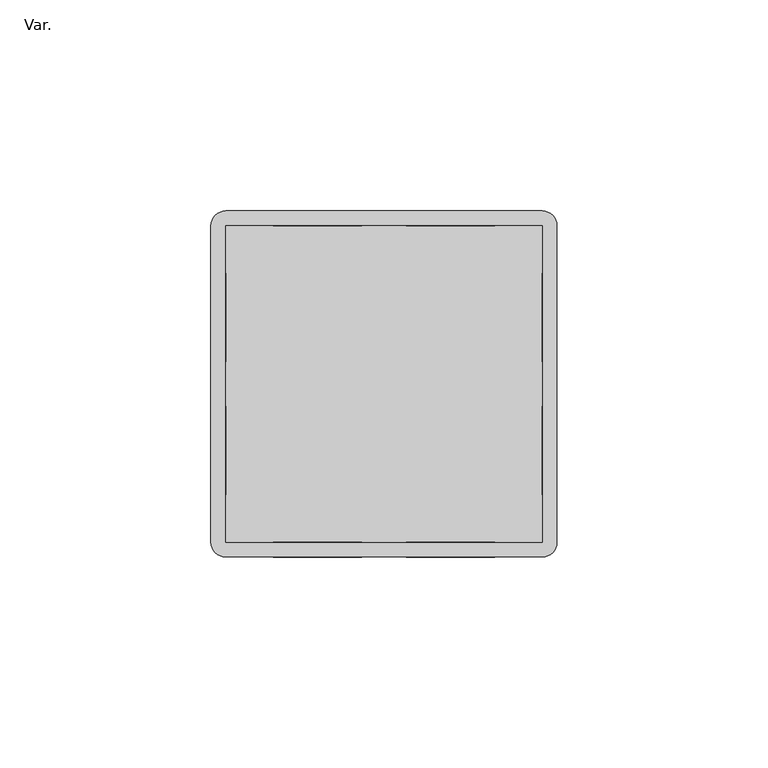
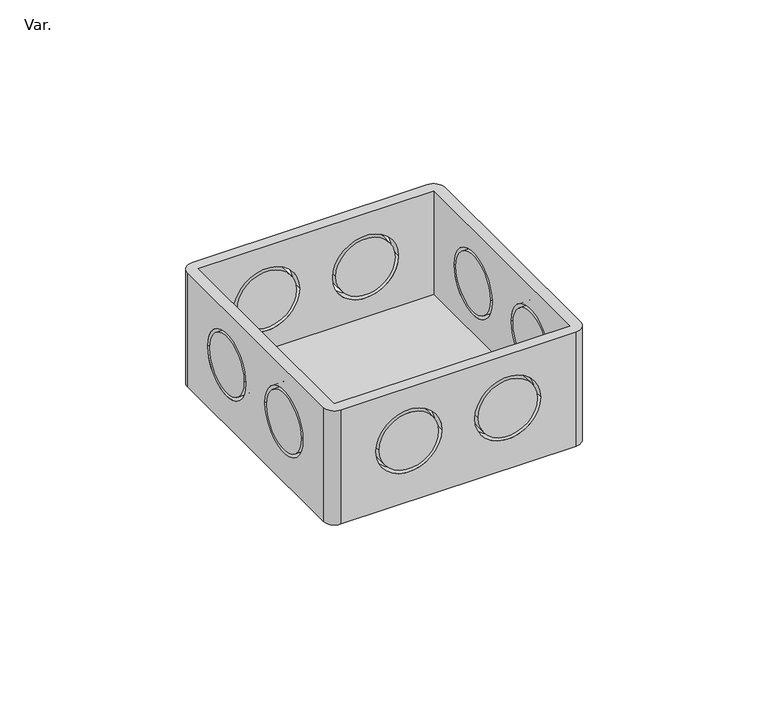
"""IFC4 building model written with IfcOpenShell, lengths in millimetres: cable carrier fitting geometry."""

from ifc_helpers import new_model, si_unit, frame, origin, place, context, project, spatial, polyline, circle_curve, source, transform, mapped, element, save
from ifc_brep_helpers import plane_surface, cylinder_surface, revolved_surface, advanced_brep


def var_f0f9a7e7(model_context):
    return source(origin(), model_context, "Body", "AdvancedBrep", [
        advanced_brep(
        [(37.5, 41.0, 18.0), (-37.5, 41.0, 18.0), (-41.0, 37.5, 18.0), (-41.0, -37.5, 18.0), (-37.5, -41.0, 18.0), (37.5, -41.0, 18.0), (41.0, -37.5, 18.0), (41.0, 37.5, 18.0), (-37.5, 37.5, 18.0), (37.5, 37.5, 18.0), (37.5, -37.5, 18.0), (-37.5, -37.5, 18.0), (37.5, 41.0, -20.5), (41.0, 37.5, -20.5), (41.0, -37.5, -20.5), (37.5, -41.0, -20.5), (-37.5, -41.0, -20.5), (-41.0, -37.5, -20.5), (-41.0, 37.5, -20.5), (-37.5, 41.0, -20.5), (-26.25, 41.0, 0.0), (-5.25, 41.0, 0.0), (5.25, 41.0, 0.0), (26.25, 41.0, 0.0), (-41.0, 5.25, 0.0), (-41.0, 26.25, 0.0), (-41.0, -26.25, 0.0), (-41.0, -5.25, 0.0), (-5.25, -41.0, 0.0), (-26.25, -41.0, 0.0), (26.25, -41.0, 0.0), (5.25, -41.0, 0.0), (41.0, 26.25, 0.0), (41.0, 5.25, 0.0), (41.0, -5.25, 0.0), (41.0, -26.25, 0.0), (37.5, 37.5, -17.0), (-37.5, 37.5, -17.0), (-37.5, -37.5, -17.0), (37.5, -37.5, -17.0), (-5.25, 37.5, 0.0), (-26.25, 37.5, 0.0), (26.25, 37.5, 0.0), (5.25, 37.5, 0.0), (-37.5, 26.25, 0.0), (-37.5, 5.25, 0.0), (-37.5, -5.25, 0.0), (-37.5, -26.25, 0.0), (-26.25, -37.5, 0.0), (-5.25, -37.5, 0.0), (5.25, -37.5, 0.0), (26.25, -37.5, 0.0), (37.5, 5.25, 0.0), (37.5, 26.25, 0.0), (37.5, -26.25, 0.0), (37.5, -5.25, 0.0)],
        [
            (0, 1),
            (1, 2, circle_curve(frame((-37.5, 37.5, 18.0), z_axis=(0.0, 0.0, 1.0), x_axis=(1.0, 0.0, 0.0)), 3.5)),
            (2, 3),
            (3, 4, circle_curve(frame((-37.5, -37.5, 18.0), z_axis=(0.0, 0.0, 1.0), x_axis=(1.0, 0.0, 0.0)), 3.5)),
            (4, 5),
            (5, 6, circle_curve(frame((37.5, -37.5, 18.0), z_axis=(0.0, 0.0, 1.0), x_axis=(1.0, 0.0, 0.0)), 3.5)),
            (6, 7),
            (7, 0, circle_curve(frame((37.5, 37.5, 18.0), z_axis=(0.0, 0.0, 1.0), x_axis=(1.0, 0.0, 0.0)), 3.5)),
            (8, 9),
            (9, 10),
            (10, 11),
            (11, 8),
            (12, 13, circle_curve(frame((37.5, 37.5, -20.5), z_axis=(0.0, 0.0, -1.0), x_axis=(1.0, 0.0, 0.0)), 3.5)),
            (13, 14),
            (14, 15, circle_curve(frame((37.5, -37.5, -20.5), z_axis=(0.0, 0.0, -1.0), x_axis=(1.0, 0.0, 0.0)), 3.5)),
            (15, 16),
            (16, 17, circle_curve(frame((-37.5, -37.5, -20.5), z_axis=(0.0, 0.0, -1.0), x_axis=(1.0, 0.0, 0.0)), 3.5)),
            (17, 18),
            (18, 19, circle_curve(frame((-37.5, 37.5, -20.5), z_axis=(0.0, 0.0, -1.0), x_axis=(1.0, 0.0, 0.0)), 3.5)),
            (19, 12),
            (0, 12),
            (19, 1),
            (20, 21, circle_curve(frame((-15.75, 41.0, 0.0), z_axis=(0.0, -1.0, 0.0), x_axis=(1.0, 0.0, 0.0)), 10.5)),
            (21, 20, circle_curve(frame((-15.75, 41.0, 0.0), z_axis=(0.0, -1.0, 0.0), x_axis=(1.0, 0.0, 0.0)), 10.5)),
            (22, 23, circle_curve(frame((15.75, 41.0, 0.0), z_axis=(0.0, -1.0, 0.0), x_axis=(1.0, 0.0, 0.0)), 10.5)),
            (23, 22, circle_curve(frame((15.75, 41.0, 0.0), z_axis=(0.0, -1.0, 0.0), x_axis=(1.0, 0.0, 0.0)), 10.5)),
            (18, 2),
            (17, 3),
            (24, 25, circle_curve(frame((-41.0, 15.75, 0.0), z_axis=(1.0, 0.0, 0.0), x_axis=(0.0, -1.0, 0.0)), 10.5)),
            (25, 24, circle_curve(frame((-41.0, 15.75, 0.0), z_axis=(1.0, 0.0, 0.0), x_axis=(0.0, -1.0, 0.0)), 10.5)),
            (26, 27, circle_curve(frame((-41.0, -15.75, 0.0), z_axis=(1.0, 0.0, 0.0), x_axis=(0.0, -1.0, 0.0)), 10.5)),
            (27, 26, circle_curve(frame((-41.0, -15.75, 0.0), z_axis=(1.0, 0.0, 0.0), x_axis=(0.0, -1.0, 0.0)), 10.5)),
            (16, 4),
            (15, 5),
            (28, 29, circle_curve(frame((-15.75, -41.0, 0.0), z_axis=(0.0, 1.0, 0.0), x_axis=(1.0, 0.0, 0.0)), 10.5)),
            (29, 28, circle_curve(frame((-15.75, -41.0, 0.0), z_axis=(0.0, 1.0, 0.0), x_axis=(1.0, 0.0, 0.0)), 10.5)),
            (30, 31, circle_curve(frame((15.75, -41.0, 0.0), z_axis=(0.0, 1.0, 0.0), x_axis=(1.0, 0.0, 0.0)), 10.5)),
            (31, 30, circle_curve(frame((15.75, -41.0, 0.0), z_axis=(0.0, 1.0, 0.0), x_axis=(1.0, 0.0, 0.0)), 10.5)),
            (14, 6),
            (13, 7),
            (32, 33, circle_curve(frame((41.0, 15.75, 0.0), z_axis=(-1.0, 0.0, 0.0), x_axis=(0.0, -1.0, 0.0)), 10.5)),
            (33, 32, circle_curve(frame((41.0, 15.75, 0.0), z_axis=(-1.0, 0.0, 0.0), x_axis=(0.0, -1.0, 0.0)), 10.5)),
            (34, 35, circle_curve(frame((41.0, -15.75, 0.0), z_axis=(-1.0, 0.0, 0.0), x_axis=(0.0, -1.0, 0.0)), 10.5)),
            (35, 34, circle_curve(frame((41.0, -15.75, 0.0), z_axis=(-1.0, 0.0, 0.0), x_axis=(0.0, -1.0, 0.0)), 10.5)),
            (36, 37),
            (37, 38),
            (38, 39),
            (39, 36),
            (36, 9),
            (8, 37),
            (40, 41, circle_curve(frame((-15.75, 37.5, 0.0), z_axis=(0.0, 1.0, 0.0), x_axis=(1.0, 0.0, 0.0)), 10.5)),
            (41, 40, circle_curve(frame((-15.75, 37.5, 0.0), z_axis=(0.0, 1.0, 0.0), x_axis=(1.0, 0.0, 0.0)), 10.5)),
            (42, 43, circle_curve(frame((15.75, 37.5, 0.0), z_axis=(0.0, 1.0, 0.0), x_axis=(1.0, 0.0, 0.0)), 10.5)),
            (43, 42, circle_curve(frame((15.75, 37.5, 0.0), z_axis=(0.0, 1.0, 0.0), x_axis=(1.0, 0.0, 0.0)), 10.5)),
            (11, 38),
            (44, 45, circle_curve(frame((-37.5, 15.75, 0.0), z_axis=(-1.0, 0.0, 0.0), x_axis=(0.0, -1.0, 0.0)), 10.5)),
            (45, 44, circle_curve(frame((-37.5, 15.75, 0.0), z_axis=(-1.0, 0.0, 0.0), x_axis=(0.0, -1.0, 0.0)), 10.5)),
            (46, 47, circle_curve(frame((-37.5, -15.75, 0.0), z_axis=(-1.0, 0.0, 0.0), x_axis=(0.0, -1.0, 0.0)), 10.5)),
            (47, 46, circle_curve(frame((-37.5, -15.75, 0.0), z_axis=(-1.0, 0.0, 0.0), x_axis=(0.0, -1.0, 0.0)), 10.5)),
            (10, 39),
            (48, 49, circle_curve(frame((-15.75, -37.5, 0.0), z_axis=(0.0, -1.0, 0.0), x_axis=(1.0, 0.0, 0.0)), 10.5)),
            (49, 48, circle_curve(frame((-15.75, -37.5, 0.0), z_axis=(0.0, -1.0, 0.0), x_axis=(1.0, 0.0, 0.0)), 10.5)),
            (50, 51, circle_curve(frame((15.75, -37.5, 0.0), z_axis=(0.0, -1.0, 0.0), x_axis=(1.0, 0.0, 0.0)), 10.5)),
            (51, 50, circle_curve(frame((15.75, -37.5, 0.0), z_axis=(0.0, -1.0, 0.0), x_axis=(1.0, 0.0, 0.0)), 10.5)),
            (52, 53, circle_curve(frame((37.5, 15.75, 0.0), z_axis=(1.0, 0.0, 0.0), x_axis=(0.0, -1.0, 0.0)), 10.5)),
            (53, 52, circle_curve(frame((37.5, 15.75, 0.0), z_axis=(1.0, 0.0, 0.0), x_axis=(0.0, -1.0, 0.0)), 10.5)),
            (54, 55, circle_curve(frame((37.5, -15.75, 0.0), z_axis=(1.0, 0.0, 0.0), x_axis=(0.0, -1.0, 0.0)), 10.5)),
            (55, 54, circle_curve(frame((37.5, -15.75, 0.0), z_axis=(1.0, 0.0, 0.0), x_axis=(0.0, -1.0, 0.0)), 10.5)),
            (20, 41),
            (40, 21),
            (48, 29),
            (28, 49),
            (22, 43),
            (42, 23),
            (50, 31),
            (30, 51),
            (44, 25),
            (24, 45),
            (32, 53),
            (52, 33),
            (46, 27),
            (26, 47),
            (34, 55),
            (54, 35),
        ],
        [
            plane_surface(frame((-37.5, 41.0, 18.0), z_axis=(0.0, 0.0, 1.0), x_axis=(-1.0, 0.0, 0.0))),
            plane_surface(frame((-37.5, 41.0, -20.5), z_axis=(0.0, 0.0, -1.0), x_axis=(1.0, 0.0, 0.0))),
            plane_surface(frame((37.5, 41.0, 18.0), z_axis=(0.0, 1.0, 0.0), x_axis=(0.0, 0.0, -1.0))),
            cylinder_surface(frame((-37.5, 37.5, -20.5), z_axis=(0.0, 0.0, 1.0), x_axis=(1.0, 0.0, 0.0)), 3.5),
            plane_surface(frame((-41.0, 37.5, 18.0), z_axis=(-1.0, 0.0, 0.0), x_axis=(0.0, 0.0, -1.0))),
            cylinder_surface(frame((-37.5, -37.5, -20.5), z_axis=(0.0, 0.0, 1.0), x_axis=(1.0, 0.0, 0.0)), 3.5),
            plane_surface(frame((-37.5, -41.0, 18.0), z_axis=(0.0, -1.0, 0.0), x_axis=(0.0, 0.0, -1.0))),
            cylinder_surface(frame((37.5, -37.5, -20.5), z_axis=(0.0, 0.0, 1.0), x_axis=(1.0, 0.0, 0.0)), 3.5),
            plane_surface(frame((41.0, -37.5, 18.0), z_axis=(1.0, 0.0, 0.0), x_axis=(0.0, 0.0, -1.0))),
            cylinder_surface(frame((37.5, 37.5, -20.5), z_axis=(0.0, 0.0, 1.0), x_axis=(1.0, 0.0, 0.0)), 3.5),
            plane_surface(frame((-37.5, 37.5, -17.0), z_axis=(0.0, 0.0, 1.0), x_axis=(1.0, 0.0, 0.0))),
            plane_surface(frame((37.5, 37.5, 18.0), z_axis=(0.0, -1.0, 0.0), x_axis=(0.0, 0.0, -1.0))),
            plane_surface(frame((-37.5, 37.5, 18.0), z_axis=(1.0, 0.0, 0.0), x_axis=(0.0, 0.0, -1.0))),
            plane_surface(frame((-37.5, -37.5, 18.0), z_axis=(0.0, 1.0, 0.0), x_axis=(0.0, 0.0, -1.0))),
            plane_surface(frame((37.5, -37.5, 18.0), z_axis=(-1.0, 0.0, 0.0), x_axis=(0.0, 0.0, -1.0))),
            revolved_surface(polyline([(-5.25, 37.5, 0.0), (-5.25, 41.0, 0.0)]), (-15.75, 15.75, 0.0), (0.0, -1.0, 0.0)),
            revolved_surface(polyline([(-5.25, -41.0, 0.0), (-5.25, -37.5, 0.0)]), (-15.75, 15.75, 0.0), (0.0, -1.0, 0.0)),
            revolved_surface(polyline([(26.25, 37.5, 0.0), (26.25, 41.0, 0.0)]), (15.75, 15.75, 0.0), (0.0, -1.0, 0.0)),
            revolved_surface(polyline([(26.25, -41.0, 0.0), (26.25, -37.5, 0.0)]), (15.75, 15.75, 0.0), (0.0, -1.0, 0.0)),
            revolved_surface(polyline([(-41.0, 5.25, 0.0), (-37.5, 5.25, 0.0)]), (84.25, 15.75, 0.0), (-1.0, 0.0, 0.0)),
            revolved_surface(polyline([(37.5, 5.25, 0.0), (41.0, 5.25, 0.0)]), (84.25, 15.75, 0.0), (-1.0, 0.0, 0.0)),
            revolved_surface(polyline([(-41.0, -26.25, 0.0), (-37.5, -26.25, 0.0)]), (-15.75, -15.75, 0.0), (-1.0, 0.0, 0.0)),
            revolved_surface(polyline([(37.5, -26.25, 0.0), (41.0, -26.25, 0.0)]), (-15.75, -15.75, 0.0), (-1.0, 0.0, 0.0)),
        ],
        [
            (0, [[1, 2, 3, 4, 5, 6, 7, 8], [9, 10, 11, 12]]),
            (1, [[13, 14, 15, 16, 17, 18, 19, 20]]),
            (2, [[-1, 21, -20, 22], [23, 24], [25, 26]]),
            (3, [[-2, -22, -19, 27]]),
            (4, [[-3, -27, -18, 28], [29, 30], [31, 32]]),
            (5, [[-4, -28, -17, 33]]),
            (6, [[-5, -33, -16, 34], [35, 36], [37, 38]]),
            (7, [[-6, -34, -15, 39]]),
            (8, [[-7, -39, -14, 40], [41, 42], [43, 44]]),
            (9, [[-8, -40, -13, -21]]),
            (10, [[45, 46, 47, 48]]),
            (11, [[-45, 49, -9, 50], [51, 52], [53, 54]]),
            (12, [[-46, -50, -12, 55], [56, 57], [58, 59]]),
            (13, [[-47, -55, -11, 60], [61, 62], [63, 64]]),
            (14, [[-48, -60, -10, -49], [65, 66], [67, 68]]),
            (15, [[69, -51, 70, -23]]),
            (16, [[71, -35, 72, -61]]),
            (15, [[-69, -24, -70, -52]]),
            (16, [[-71, -62, -72, -36]]),
            (17, [[73, -53, 74, -25]]),
            (18, [[75, -37, 76, -63]]),
            (17, [[-73, -26, -74, -54]]),
            (18, [[-75, -64, -76, -38]]),
            (19, [[77, -29, 78, -56]]),
            (20, [[79, -65, 80, -41]]),
            (19, [[-77, -57, -78, -30]]),
            (20, [[-79, -42, -80, -66]]),
            (21, [[81, -31, 82, -58]]),
            (22, [[83, -67, 84, -43]]),
            (21, [[-81, -59, -82, -32]]),
            (22, [[-83, -44, -84, -68]]),
        ],
    ),
        advanced_brep(
        [(-25.2, 41.0, 0.0), (-6.3, 41.0, 0.0), (-6.3, 37.5, 0.0), (-25.2, 37.5, 0.0)],
        [
            (0, 1, circle_curve(frame((-15.75, 41.0, 0.0), z_axis=(0.0, 1.0, 0.0), x_axis=(1.0, 0.0, 0.0)), 9.45)),
            (1, 0, circle_curve(frame((-15.75, 41.0, 0.0), z_axis=(0.0, 1.0, 0.0), x_axis=(1.0, 0.0, 0.0)), 9.45)),
            (2, 3, circle_curve(frame((-15.75, 37.5, 0.0), z_axis=(0.0, -1.0, 0.0), x_axis=(1.0, 0.0, 0.0)), 9.45)),
            (3, 2, circle_curve(frame((-15.75, 37.5, 0.0), z_axis=(0.0, -1.0, 0.0), x_axis=(1.0, 0.0, 0.0)), 9.45)),
            (0, 3),
            (2, 1),
        ],
        [
            plane_surface(frame((37.5, 41.0, 18.0), z_axis=(0.0, 1.0, 0.0), x_axis=(0.0, 0.0, -1.0))),
            plane_surface(frame((37.5, 37.5, 18.0), z_axis=(0.0, -1.0, 0.0), x_axis=(0.0, 0.0, -1.0))),
            cylinder_surface(frame((-15.75, 115.75, 0.0), z_axis=(0.0, 1.0, 0.0), x_axis=(1.0, 0.0, 0.0)), 9.45),
        ],
        [
            (0, [[1, 2]]),
            (1, [[3, 4]]),
            (2, [[5, -3, 6, -1]]),
            (2, [[-5, -2, -6, -4]]),
        ],
    ),
        advanced_brep(
        [(6.3, 41.0, 0.0), (25.2, 41.0, 0.0), (25.2, 37.5, 0.0), (6.3, 37.5, 0.0)],
        [
            (0, 1, circle_curve(frame((15.75, 41.0, 0.0), z_axis=(0.0, 1.0, 0.0), x_axis=(1.0, 0.0, 0.0)), 9.45)),
            (1, 0, circle_curve(frame((15.75, 41.0, 0.0), z_axis=(0.0, 1.0, 0.0), x_axis=(1.0, 0.0, 0.0)), 9.45)),
            (2, 3, circle_curve(frame((15.75, 37.5, 0.0), z_axis=(0.0, -1.0, 0.0), x_axis=(1.0, 0.0, 0.0)), 9.45)),
            (3, 2, circle_curve(frame((15.75, 37.5, 0.0), z_axis=(0.0, -1.0, 0.0), x_axis=(1.0, 0.0, 0.0)), 9.45)),
            (0, 3),
            (2, 1),
        ],
        [
            plane_surface(frame((37.5, 41.0, 18.0), z_axis=(0.0, 1.0, 0.0), x_axis=(0.0, 0.0, -1.0))),
            plane_surface(frame((37.5, 37.5, 18.0), z_axis=(0.0, -1.0, 0.0), x_axis=(0.0, 0.0, -1.0))),
            cylinder_surface(frame((15.75, 15.75, 0.0), z_axis=(0.0, 1.0, 0.0), x_axis=(1.0, 0.0, 0.0)), 9.45),
        ],
        [
            (0, [[1, 2]]),
            (1, [[3, 4]]),
            (2, [[5, -3, 6, -1]]),
            (2, [[-5, -2, -6, -4]]),
        ],
    ),
        advanced_brep(
        [(-41.0, 6.3, 0.0), (-41.0, 25.2, 0.0), (-37.5, 25.2, 0.0), (-37.5, 6.3, 0.0)],
        [
            (0, 1, circle_curve(frame((-41.0, 15.75, 0.0), z_axis=(-1.0, 0.0, 0.0), x_axis=(0.0, -1.0, 0.0)), 9.45)),
            (1, 0, circle_curve(frame((-41.0, 15.75, 0.0), z_axis=(-1.0, 0.0, 0.0), x_axis=(0.0, -1.0, 0.0)), 9.45)),
            (2, 3, circle_curve(frame((-37.5, 15.75, 0.0), z_axis=(1.0, 0.0, 0.0), x_axis=(0.0, -1.0, 0.0)), 9.45)),
            (3, 2, circle_curve(frame((-37.5, 15.75, 0.0), z_axis=(1.0, 0.0, 0.0), x_axis=(0.0, -1.0, 0.0)), 9.45)),
            (2, 1),
            (0, 3),
        ],
        [
            plane_surface(frame((-41.0, 37.5, 18.0), z_axis=(-1.0, 0.0, 0.0), x_axis=(0.0, 0.0, -1.0))),
            plane_surface(frame((-37.5, 37.5, 18.0), z_axis=(1.0, 0.0, 0.0), x_axis=(0.0, 0.0, -1.0))),
            cylinder_surface(frame((-15.75, 15.75, 0.0), z_axis=(1.0, 0.0, 0.0), x_axis=(0.0, -1.0, 0.0)), 9.45),
        ],
        [
            (0, [[1, 2]]),
            (1, [[3, 4]]),
            (2, [[5, -1, 6, -3]]),
            (2, [[-5, -4, -6, -2]]),
        ],
    ),
        advanced_brep(
        [(-41.0, -25.2, 0.0), (-41.0, -6.3, 0.0), (-37.5, -6.3, 0.0), (-37.5, -25.2, 0.0)],
        [
            (0, 1, circle_curve(frame((-41.0, -15.75, 0.0), z_axis=(-1.0, 0.0, 0.0), x_axis=(0.0, -1.0, 0.0)), 9.45)),
            (1, 0, circle_curve(frame((-41.0, -15.75, 0.0), z_axis=(-1.0, 0.0, 0.0), x_axis=(0.0, -1.0, 0.0)), 9.45)),
            (2, 3, circle_curve(frame((-37.5, -15.75, 0.0), z_axis=(1.0, 0.0, 0.0), x_axis=(0.0, -1.0, 0.0)), 9.45)),
            (3, 2, circle_curve(frame((-37.5, -15.75, 0.0), z_axis=(1.0, 0.0, 0.0), x_axis=(0.0, -1.0, 0.0)), 9.45)),
            (2, 1),
            (0, 3),
        ],
        [
            plane_surface(frame((-41.0, 37.5, 18.0), z_axis=(-1.0, 0.0, 0.0), x_axis=(0.0, 0.0, -1.0))),
            plane_surface(frame((-37.5, 37.5, 18.0), z_axis=(1.0, 0.0, 0.0), x_axis=(0.0, 0.0, -1.0))),
            cylinder_surface(frame((-15.75, -15.75, 0.0), z_axis=(1.0, 0.0, 0.0), x_axis=(0.0, -1.0, 0.0)), 9.45),
        ],
        [
            (0, [[1, 2]]),
            (1, [[3, 4]]),
            (2, [[5, -1, 6, -3]]),
            (2, [[-5, -4, -6, -2]]),
        ],
    ),
        advanced_brep(
        [(-6.3, -41.0, 0.0), (-25.2, -41.0, 0.0), (-25.2, -37.5, 0.0), (-6.3, -37.5, 0.0)],
        [
            (0, 1, circle_curve(frame((-15.75, -41.0, 0.0), z_axis=(0.0, -1.0, 0.0), x_axis=(1.0, 0.0, 0.0)), 9.45)),
            (1, 0, circle_curve(frame((-15.75, -41.0, 0.0), z_axis=(0.0, -1.0, 0.0), x_axis=(1.0, 0.0, 0.0)), 9.45)),
            (2, 3, circle_curve(frame((-15.75, -37.5, 0.0), z_axis=(0.0, 1.0, 0.0), x_axis=(1.0, 0.0, 0.0)), 9.45)),
            (3, 2, circle_curve(frame((-15.75, -37.5, 0.0), z_axis=(0.0, 1.0, 0.0), x_axis=(1.0, 0.0, 0.0)), 9.45)),
            (2, 1),
            (0, 3),
        ],
        [
            plane_surface(frame((-37.5, -41.0, 18.0), z_axis=(0.0, -1.0, 0.0), x_axis=(0.0, 0.0, -1.0))),
            plane_surface(frame((-37.5, -37.5, 18.0), z_axis=(0.0, 1.0, 0.0), x_axis=(0.0, 0.0, -1.0))),
            cylinder_surface(frame((-15.75, 115.75, 0.0), z_axis=(0.0, 1.0, 0.0), x_axis=(1.0, 0.0, 0.0)), 9.45),
        ],
        [
            (0, [[1, 2]]),
            (1, [[3, 4]]),
            (2, [[5, -1, 6, -3]]),
            (2, [[-5, -4, -6, -2]]),
        ],
    ),
        advanced_brep(
        [(25.2, -41.0, 0.0), (6.3, -41.0, 0.0), (6.3, -37.5, 0.0), (25.2, -37.5, 0.0)],
        [
            (0, 1, circle_curve(frame((15.75, -41.0, 0.0), z_axis=(0.0, -1.0, 0.0), x_axis=(1.0, 0.0, 0.0)), 9.45)),
            (1, 0, circle_curve(frame((15.75, -41.0, 0.0), z_axis=(0.0, -1.0, 0.0), x_axis=(1.0, 0.0, 0.0)), 9.45)),
            (2, 3, circle_curve(frame((15.75, -37.5, 0.0), z_axis=(0.0, 1.0, 0.0), x_axis=(1.0, 0.0, 0.0)), 9.45)),
            (3, 2, circle_curve(frame((15.75, -37.5, 0.0), z_axis=(0.0, 1.0, 0.0), x_axis=(1.0, 0.0, 0.0)), 9.45)),
            (2, 1),
            (0, 3),
        ],
        [
            plane_surface(frame((-37.5, -41.0, 18.0), z_axis=(0.0, -1.0, 0.0), x_axis=(0.0, 0.0, -1.0))),
            plane_surface(frame((-37.5, -37.5, 18.0), z_axis=(0.0, 1.0, 0.0), x_axis=(0.0, 0.0, -1.0))),
            cylinder_surface(frame((15.75, 15.75, 0.0), z_axis=(0.0, 1.0, 0.0), x_axis=(1.0, 0.0, 0.0)), 9.45),
        ],
        [
            (0, [[1, 2]]),
            (1, [[3, 4]]),
            (2, [[5, -1, 6, -3]]),
            (2, [[-5, -4, -6, -2]]),
        ],
    ),
        advanced_brep(
        [(41.0, 25.2, 0.0), (41.0, 6.3, 0.0), (37.5, 6.3, 0.0), (37.5, 25.2, 0.0)],
        [
            (0, 1, circle_curve(frame((41.0, 15.75, 0.0), z_axis=(1.0, 0.0, 0.0), x_axis=(0.0, -1.0, 0.0)), 9.45)),
            (1, 0, circle_curve(frame((41.0, 15.75, 0.0), z_axis=(1.0, 0.0, 0.0), x_axis=(0.0, -1.0, 0.0)), 9.45)),
            (2, 3, circle_curve(frame((37.5, 15.75, 0.0), z_axis=(-1.0, 0.0, 0.0), x_axis=(0.0, -1.0, 0.0)), 9.45)),
            (3, 2, circle_curve(frame((37.5, 15.75, 0.0), z_axis=(-1.0, 0.0, 0.0), x_axis=(0.0, -1.0, 0.0)), 9.45)),
            (0, 3),
            (2, 1),
        ],
        [
            plane_surface(frame((41.0, -37.5, 18.0), z_axis=(1.0, 0.0, 0.0), x_axis=(0.0, 0.0, -1.0))),
            plane_surface(frame((37.5, -37.5, 18.0), z_axis=(-1.0, 0.0, 0.0), x_axis=(0.0, 0.0, -1.0))),
            cylinder_surface(frame((-15.75, 15.75, 0.0), z_axis=(1.0, 0.0, 0.0), x_axis=(0.0, -1.0, 0.0)), 9.45),
        ],
        [
            (0, [[1, 2]]),
            (1, [[3, 4]]),
            (2, [[5, -3, 6, -1]]),
            (2, [[-5, -2, -6, -4]]),
        ],
    ),
        advanced_brep(
        [(41.0, -6.3, 0.0), (41.0, -25.2, 0.0), (37.5, -25.2, 0.0), (37.5, -6.3, 0.0)],
        [
            (0, 1, circle_curve(frame((41.0, -15.75, 0.0), z_axis=(1.0, 0.0, 0.0), x_axis=(0.0, -1.0, 0.0)), 9.45)),
            (1, 0, circle_curve(frame((41.0, -15.75, 0.0), z_axis=(1.0, 0.0, 0.0), x_axis=(0.0, -1.0, 0.0)), 9.45)),
            (2, 3, circle_curve(frame((37.5, -15.75, 0.0), z_axis=(-1.0, 0.0, 0.0), x_axis=(0.0, -1.0, 0.0)), 9.45)),
            (3, 2, circle_curve(frame((37.5, -15.75, 0.0), z_axis=(-1.0, 0.0, 0.0), x_axis=(0.0, -1.0, 0.0)), 9.45)),
            (0, 3),
            (2, 1),
        ],
        [
            plane_surface(frame((41.0, -37.5, 18.0), z_axis=(1.0, 0.0, 0.0), x_axis=(0.0, 0.0, -1.0))),
            plane_surface(frame((37.5, -37.5, 18.0), z_axis=(-1.0, 0.0, 0.0), x_axis=(0.0, 0.0, -1.0))),
            cylinder_surface(frame((-15.75, -15.75, 0.0), z_axis=(1.0, 0.0, 0.0), x_axis=(0.0, -1.0, 0.0)), 9.45),
        ],
        [
            (0, [[1, 2]]),
            (1, [[3, 4]]),
            (2, [[5, -3, 6, -1]]),
            (2, [[-5, -2, -6, -4]]),
        ],
    ),
    ])


if __name__ == "__main__":
    model = new_model("IFC4")
    model_context = context("Model", 3, world=origin())
    ifc_project = project(units=[si_unit("LENGTHUNIT", "METRE", prefix="MILLI")], contexts=[model_context])
    site = spatial("IfcSite", under=ifc_project)
    building = spatial("IfcBuilding", under=site)
    placement = place(None, origin())
    var_shape = var_f0f9a7e7(model_context)
    element("IfcCableCarrierFitting", 1, ObjectType="AmancoWavin_Unionesdetubería_ConduitCajaCuadrada_1/2\" : Var.", at=placement, inside=building, context=model_context, shape_type="MappedRepresentation", body=[
        mapped(var_shape, transform((0.0, 0.0, 0.0), x_axis=(1.0, 0.0, 0.0), y_axis=(0.0, 1.0, 0.0), z_axis=(0.0, 0.0, 1.0))),
    ])
    save(model, "model.ifc")
